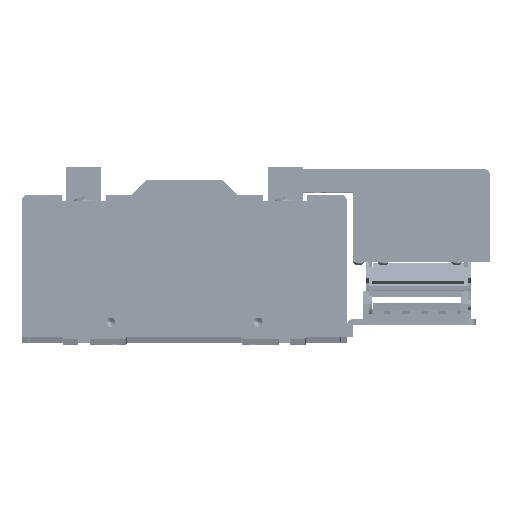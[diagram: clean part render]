
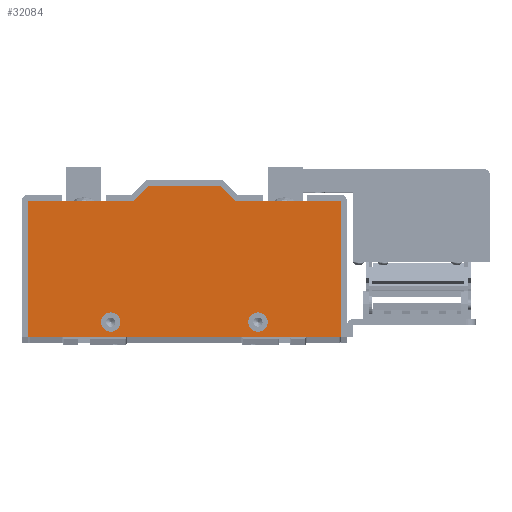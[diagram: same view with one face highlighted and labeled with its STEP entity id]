
A CAD part, top view. The second image highlights one B-rep face of the part: STEP entity #32084.
In plain terms, the highlighted planar face has unit normal (0, 0, 1).
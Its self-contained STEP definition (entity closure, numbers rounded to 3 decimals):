
#31667 = EDGE_CURVE ( 'NONE', #31819, #31821, #144572, .T. ) ;
#31706 = EDGE_CURVE ( 'NONE', #31752, #31754, #144772, .T. ) ;
#31752 = VERTEX_POINT ( 'NONE', #144931 ) ;
#31754 = VERTEX_POINT ( 'NONE', #145154 ) ;
#31779 = VERTEX_POINT ( 'NONE', #145233 ) ;
#31795 = EDGE_CURVE ( 'NONE', #31899, #31779, #145172, .T. ) ;
#31819 = VERTEX_POINT ( 'NONE', #145427 ) ;
#31821 = VERTEX_POINT ( 'NONE', #145422 ) ;
#31884 = EDGE_CURVE ( 'NONE', #32015, #32012, #145715, .T. ) ;
#31895 = VERTEX_POINT ( 'NONE', #145857 ) ;
#31899 = VERTEX_POINT ( 'NONE', #145854 ) ;
#31911 = EDGE_CURVE ( 'NONE', #32012, #31899, #145992, .T. ) ;
#31927 = EDGE_CURVE ( 'NONE', #31779, #31895, #145899, .T. ) ;
#31935 = ORIENTED_EDGE ( 'NONE', *, *, #31941, .F. ) ;
#31939 = VERTEX_POINT ( 'NONE', #146048 ) ;
#31941 = EDGE_CURVE ( 'NONE', #31821, #31819, #146027, .T. ) ;
#31943 = ORIENTED_EDGE ( 'NONE', *, *, #31667, .F. ) ;
#31946 = EDGE_LOOP ( 'NONE', ( #31959, #31973 ) ) ;
#31959 = ORIENTED_EDGE ( 'NONE', *, *, #31961, .F. ) ;
#31961 = EDGE_CURVE ( 'NONE', #31754, #31752, #146123, .T. ) ;
#31964 = EDGE_LOOP ( 'NONE', ( #31965, #31967, #31971, #31981, #31986, #32130, #154131, #32122 ) ) ;
#31965 = ORIENTED_EDGE ( 'NONE', *, *, #31884, .T. ) ;
#31967 = ORIENTED_EDGE ( 'NONE', *, *, #31911, .T. ) ;
#31971 = ORIENTED_EDGE ( 'NONE', *, *, #31795, .T. ) ;
#31973 = ORIENTED_EDGE ( 'NONE', *, *, #31706, .F. ) ;
#31981 = ORIENTED_EDGE ( 'NONE', *, *, #31927, .T. ) ;
#31986 = ORIENTED_EDGE ( 'NONE', *, *, #32081, .T. ) ;
#32012 = VERTEX_POINT ( 'NONE', #146501 ) ;
#32015 = VERTEX_POINT ( 'NONE', #146499 ) ;
#32039 = EDGE_CURVE ( 'NONE', #31939, #32094, #146543, .T. ) ;
#32065 = VERTEX_POINT ( 'NONE', #146588 ) ;
#32070 = EDGE_CURVE ( 'NONE', #32065, #32015, #146707, .T. ) ;
#32081 = EDGE_CURVE ( 'NONE', #31895, #31939, #146676, .T. ) ;
#32084 = ADVANCED_FACE ( 'NONE', ( #146672, #146669, #146667 ), #146664, .T. ) ;
#32087 = EDGE_LOOP ( 'NONE', ( #31935, #31943 ) ) ;
#32089 = EDGE_CURVE ( 'NONE', #32094, #32065, #146653, .T. ) ;
#32094 = VERTEX_POINT ( 'NONE', #146774 ) ;
#32122 = ORIENTED_EDGE ( 'NONE', *, *, #32070, .T. ) ;
#32130 = ORIENTED_EDGE ( 'NONE', *, *, #32039, .T. ) ;
#144562 = DIRECTION ( 'NONE',  ( 1., 0., 0. ) ) ;
#144568 = DIRECTION ( 'NONE',  ( 0., 0., 1. ) ) ;
#144570 = AXIS2_PLACEMENT_3D ( 'NONE', #144587, #144568, #144562 ) ;
#144572 = CIRCLE ( 'NONE', #144570, 5.25 ) ;
#144587 = CARTESIAN_POINT ( 'NONE',  ( -40., -29., 9.525 ) ) ;
#144762 = DIRECTION ( 'NONE',  ( 1., 0., 0. ) ) ;
#144765 = DIRECTION ( 'NONE',  ( 0., 0., 1. ) ) ;
#144768 = CARTESIAN_POINT ( 'NONE',  ( 40., -29., 9.525 ) ) ;
#144770 = AXIS2_PLACEMENT_3D ( 'NONE', #144768, #144765, #144762 ) ;
#144772 = CIRCLE ( 'NONE', #144770, 5.25 ) ;
#144931 = CARTESIAN_POINT ( 'NONE',  ( 34.75, -29., 9.525 ) ) ;
#145154 = CARTESIAN_POINT ( 'NONE',  ( 45.25, -29., 9.525 ) ) ;
#145165 = DIRECTION ( 'NONE',  ( 0., 1., 0. ) ) ;
#145166 = VECTOR ( 'NONE', #145165, 1000. ) ;
#145169 = CARTESIAN_POINT ( 'NONE',  ( 85., 37., 9.525 ) ) ;
#145172 = LINE ( 'NONE', #145169, #145166 ) ;
#145233 = CARTESIAN_POINT ( 'NONE',  ( 85., 37., 9.525 ) ) ;
#145422 = CARTESIAN_POINT ( 'NONE',  ( -34.75, -29., 9.525 ) ) ;
#145427 = CARTESIAN_POINT ( 'NONE',  ( -45.25, -29., 9.525 ) ) ;
#145709 = DIRECTION ( 'NONE',  ( 0., -1., 0. ) ) ;
#145712 = VECTOR ( 'NONE', #145709, 1000. ) ;
#145714 = CARTESIAN_POINT ( 'NONE',  ( -85., 37., 9.525 ) ) ;
#145715 = LINE ( 'NONE', #145714, #145712 ) ;
#145854 = CARTESIAN_POINT ( 'NONE',  ( 85., -37., 9.525 ) ) ;
#145857 = CARTESIAN_POINT ( 'NONE',  ( 27.5, 37., 9.525 ) ) ;
#145895 = DIRECTION ( 'NONE',  ( -1., 0., 0. ) ) ;
#145897 = VECTOR ( 'NONE', #145895, 1000. ) ;
#145898 = CARTESIAN_POINT ( 'NONE',  ( 27.5, 37., 9.525 ) ) ;
#145899 = LINE ( 'NONE', #145898, #145897 ) ;
#145985 = DIRECTION ( 'NONE',  ( 1., 0., 0. ) ) ;
#145986 = VECTOR ( 'NONE', #145985, 1000. ) ;
#145989 = CARTESIAN_POINT ( 'NONE',  ( -85., -37., 9.525 ) ) ;
#145992 = LINE ( 'NONE', #145989, #145986 ) ;
#146020 = DIRECTION ( 'NONE',  ( 1., 0., 0. ) ) ;
#146021 = DIRECTION ( 'NONE',  ( 0., 0., 1. ) ) ;
#146022 = CARTESIAN_POINT ( 'NONE',  ( -40., -29., 9.525 ) ) ;
#146024 = AXIS2_PLACEMENT_3D ( 'NONE', #146022, #146021, #146020 ) ;
#146027 = CIRCLE ( 'NONE', #146024, 5.25 ) ;
#146048 = CARTESIAN_POINT ( 'NONE',  ( 19.5, 45., 9.525 ) ) ;
#146115 = DIRECTION ( 'NONE',  ( 1., 0., 0. ) ) ;
#146116 = DIRECTION ( 'NONE',  ( 0., 0., 1. ) ) ;
#146118 = CARTESIAN_POINT ( 'NONE',  ( 40., -29., 9.525 ) ) ;
#146120 = AXIS2_PLACEMENT_3D ( 'NONE', #146118, #146116, #146115 ) ;
#146123 = CIRCLE ( 'NONE', #146120, 5.25 ) ;
#146499 = CARTESIAN_POINT ( 'NONE',  ( -85., 37., 9.525 ) ) ;
#146501 = CARTESIAN_POINT ( 'NONE',  ( -85., -37., 9.525 ) ) ;
#146537 = DIRECTION ( 'NONE',  ( -1., 0., 0. ) ) ;
#146539 = VECTOR ( 'NONE', #146537, 1000. ) ;
#146542 = CARTESIAN_POINT ( 'NONE',  ( -19.5, 45., 9.525 ) ) ;
#146543 = LINE ( 'NONE', #146542, #146539 ) ;
#146588 = CARTESIAN_POINT ( 'NONE',  ( -27.5, 37., 9.525 ) ) ;
#146648 = DIRECTION ( 'NONE',  ( -0.707, -0.707, 0. ) ) ;
#146650 = VECTOR ( 'NONE', #146648, 1000. ) ;
#146652 = CARTESIAN_POINT ( 'NONE',  ( -27.5, 37., 9.525 ) ) ;
#146653 = LINE ( 'NONE', #146652, #146650 ) ;
#146657 = DIRECTION ( 'NONE',  ( 1., 0., 0. ) ) ;
#146659 = DIRECTION ( 'NONE',  ( 0., 0., 1. ) ) ;
#146662 = CARTESIAN_POINT ( 'NONE',  ( -85., 37., 9.525 ) ) ;
#146663 = AXIS2_PLACEMENT_3D ( 'NONE', #146662, #146659, #146657 ) ;
#146664 = PLANE ( 'NONE',  #146663 ) ;
#146667 = FACE_OUTER_BOUND ( 'NONE', #31964, .T. ) ;
#146669 = FACE_BOUND ( 'NONE', #31946, .T. ) ;
#146672 = FACE_BOUND ( 'NONE', #32087, .T. ) ;
#146673 = DIRECTION ( 'NONE',  ( -0.707, 0.707, 0. ) ) ;
#146674 = VECTOR ( 'NONE', #146673, 1000. ) ;
#146675 = CARTESIAN_POINT ( 'NONE',  ( 19.5, 45., 9.525 ) ) ;
#146676 = LINE ( 'NONE', #146675, #146674 ) ;
#146701 = DIRECTION ( 'NONE',  ( -1., 0., 0. ) ) ;
#146702 = VECTOR ( 'NONE', #146701, 1000. ) ;
#146705 = CARTESIAN_POINT ( 'NONE',  ( -85., 37., 9.525 ) ) ;
#146707 = LINE ( 'NONE', #146705, #146702 ) ;
#146774 = CARTESIAN_POINT ( 'NONE',  ( -19.5, 45., 9.525 ) ) ;
#154131 = ORIENTED_EDGE ( 'NONE', *, *, #32089, .T. ) ;
